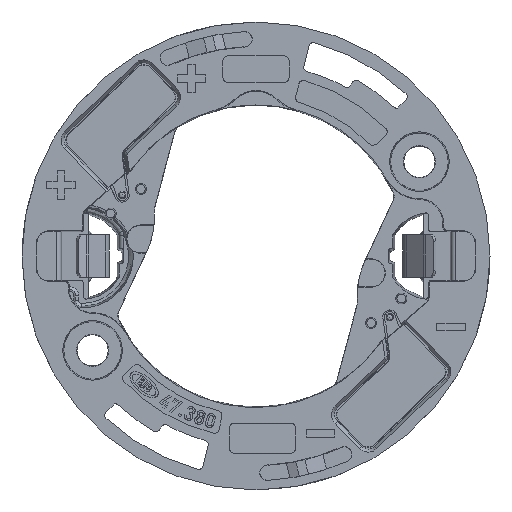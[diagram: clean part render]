
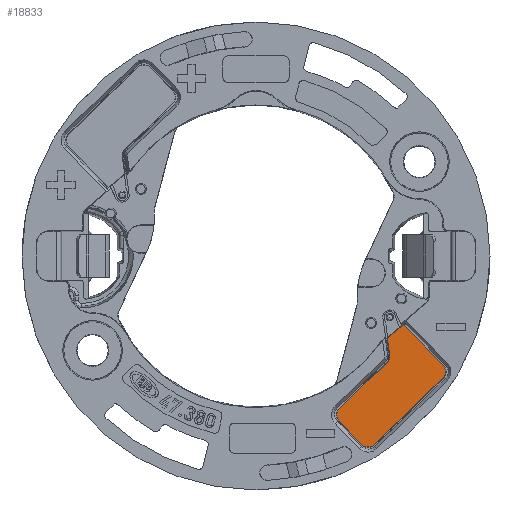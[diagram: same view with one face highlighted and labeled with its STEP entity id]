
A CAD part, top view. The second image highlights one B-rep face of the part: STEP entity #18833.
In plain terms, the highlighted planar face has unit normal (0, 0, 1).
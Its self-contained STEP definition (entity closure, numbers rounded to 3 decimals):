
#1645=LINE('',#28965,#2899);
#1654=LINE('',#28982,#2908);
#1669=LINE('',#29013,#2923);
#1690=LINE('',#29062,#2944);
#1691=LINE('',#29066,#2945);
#1692=LINE('',#29068,#2946);
#2899=VECTOR('',#23453,1000.);
#2908=VECTOR('',#23468,1000.);
#2923=VECTOR('',#23497,1000.);
#2944=VECTOR('',#23546,1000.);
#2945=VECTOR('',#23549,1000.);
#2946=VECTOR('',#23550,1000.);
#6485=ORIENTED_EDGE('',*,*,#8808,.T.);
#6486=ORIENTED_EDGE('',*,*,#8806,.T.);
#6487=ORIENTED_EDGE('',*,*,#8845,.F.);
#6488=ORIENTED_EDGE('',*,*,#8846,.F.);
#6489=ORIENTED_EDGE('',*,*,#8847,.F.);
#6490=ORIENTED_EDGE('',*,*,#8848,.F.);
#6491=ORIENTED_EDGE('',*,*,#8849,.T.);
#6492=ORIENTED_EDGE('',*,*,#8797,.T.);
#6493=ORIENTED_EDGE('',*,*,#8840,.T.);
#6494=ORIENTED_EDGE('',*,*,#8822,.T.);
#8797=EDGE_CURVE('',#10218,#10217,#1645,.T.);
#8806=EDGE_CURVE('',#10223,#10222,#1654,.T.);
#8808=EDGE_CURVE('',#10224,#10223,#10790,.T.);
#8822=EDGE_CURVE('',#10232,#10224,#1669,.T.);
#8840=EDGE_CURVE('',#10217,#10232,#10791,.F.);
#8845=EDGE_CURVE('',#10245,#10222,#10793,.F.);
#8846=EDGE_CURVE('',#10246,#10245,#1690,.T.);
#8847=EDGE_CURVE('',#10247,#10246,#10794,.F.);
#8848=EDGE_CURVE('',#10248,#10247,#1691,.T.);
#8849=EDGE_CURVE('',#10248,#10218,#1692,.T.);
#10217=VERTEX_POINT('',#28964);
#10218=VERTEX_POINT('',#28966);
#10222=VERTEX_POINT('',#28981);
#10223=VERTEX_POINT('',#28983);
#10224=VERTEX_POINT('',#28987);
#10232=VERTEX_POINT('',#29014);
#10245=VERTEX_POINT('',#29059);
#10246=VERTEX_POINT('',#29063);
#10247=VERTEX_POINT('',#29065);
#10248=VERTEX_POINT('',#29067);
#10790=CIRCLE('',#20054,0.955);
#10791=CIRCLE('',#20067,0.545);
#10793=CIRCLE('',#20072,0.955);
#10794=CIRCLE('',#20074,0.955);
#11543=EDGE_LOOP('',(#6485,#6486,#6487,#6488,#6489,#6490,#6491,#6492,#6493,
#6494));
#12385=FACE_BOUND('',#11543,.T.);
#12859=PLANE('',#20073);
#18833=ADVANCED_FACE('',(#12385),#12859,.T.);
#20054=AXIS2_PLACEMENT_3D('',#28986,#23472,#23473);
#20067=AXIS2_PLACEMENT_3D('',#29051,#23529,#23530);
#20072=AXIS2_PLACEMENT_3D('',#29060,#23542,#23543);
#20073=AXIS2_PLACEMENT_3D('',#29061,#23544,#23545);
#20074=AXIS2_PLACEMENT_3D('',#29064,#23547,#23548);
#23453=DIRECTION('',(0.137,-0.991,0.));
#23468=DIRECTION('',(0.695,-0.719,0.));
#23472=DIRECTION('',(0.,0.,1.));
#23473=DIRECTION('',(0.719,0.695,0.));
#23497=DIRECTION('',(-0.719,-0.695,0.));
#23529=DIRECTION('',(0.,0.,1.));
#23530=DIRECTION('',(0.719,0.695,0.));
#23542=DIRECTION('',(0.,0.,1.));
#23543=DIRECTION('',(0.719,0.695,0.));
#23544=DIRECTION('',(0.,0.,1.));
#23545=DIRECTION('',(0.719,0.695,0.));
#23546=DIRECTION('',(-0.719,-0.695,0.));
#23547=DIRECTION('',(0.,0.,1.));
#23548=DIRECTION('',(0.719,0.695,0.));
#23549=DIRECTION('',(0.695,-0.719,0.));
#23550=DIRECTION('',(-0.766,-0.643,0.));
#28964=CARTESIAN_POINT('',(14.189,-10.683,4.35));
#28965=CARTESIAN_POINT('',(14.937,-16.084,4.35));
#28966=CARTESIAN_POINT('',(13.914,-8.7,4.35));
#28981=CARTESIAN_POINT('',(11.19,-19.945,4.35));
#28982=CARTESIAN_POINT('',(8.828,-17.499,4.35));
#28983=CARTESIAN_POINT('',(8.828,-17.499,4.35));
#28986=CARTESIAN_POINT('',(9.515,-16.835,4.35));
#28987=CARTESIAN_POINT('',(8.851,-16.148,4.35));
#29013=CARTESIAN_POINT('',(8.851,-16.148,4.35));
#29014=CARTESIAN_POINT('',(14.028,-11.149,4.35));
#29051=CARTESIAN_POINT('',(13.649,-10.757,4.35));
#29059=CARTESIAN_POINT('',(12.541,-19.968,4.35));
#29060=CARTESIAN_POINT('',(11.877,-19.281,4.35));
#29061=CARTESIAN_POINT('',(9.515,-16.835,4.35));
#29062=CARTESIAN_POINT('',(16.173,-16.46,4.35));
#29063=CARTESIAN_POINT('',(19.806,-12.952,4.35));
#29064=CARTESIAN_POINT('',(19.142,-12.265,4.35));
#29065=CARTESIAN_POINT('',(19.83,-11.601,4.35));
#29066=CARTESIAN_POINT('',(18.01,-9.716,4.35));
#29067=CARTESIAN_POINT('',(15.634,-7.257,4.35));
#29068=CARTESIAN_POINT('',(7.327,-14.227,4.35));
